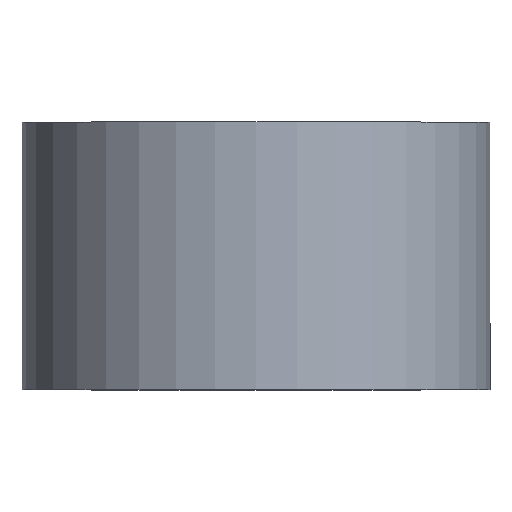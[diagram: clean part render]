
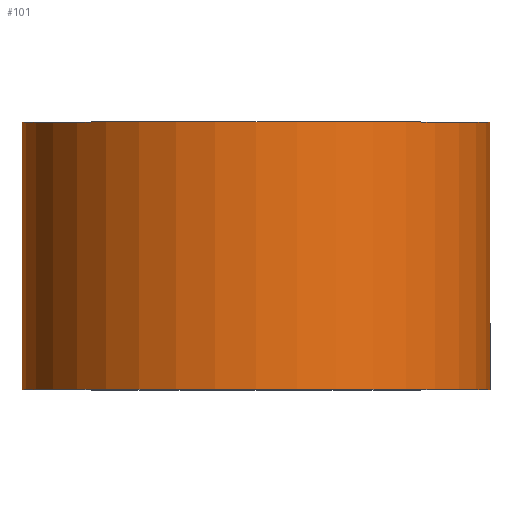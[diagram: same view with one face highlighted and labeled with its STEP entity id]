
A CAD part, top view. The second image highlights one B-rep face of the part: STEP entity #101.
In plain terms, the highlighted cylindrical face has radius 17.5 mm (diameter 35 mm), a partial arc.
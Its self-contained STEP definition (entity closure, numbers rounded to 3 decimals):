
#8 = CARTESIAN_POINT ( 'NONE',  ( 0., 20., 0. ) ) ;
#14 = ORIENTED_EDGE ( 'NONE', *, *, #126, .F. ) ;
#15 = VECTOR ( 'NONE', #288, 1000. ) ;
#25 = CIRCLE ( 'NONE', #134, 17.5 ) ;
#26 = ORIENTED_EDGE ( 'NONE', *, *, #176, .T. ) ;
#31 = CARTESIAN_POINT ( 'NONE',  ( 17.5, 20., 0. ) ) ;
#35 = VERTEX_POINT ( 'NONE', #260 ) ;
#42 = EDGE_LOOP ( 'NONE', ( #215, #26, #103, #14 ) ) ;
#64 = FACE_OUTER_BOUND ( 'NONE', #42, .T. ) ;
#73 = LINE ( 'NONE', #81, #15 ) ;
#77 = DIRECTION ( 'NONE',  ( 0., 1., 0. ) ) ;
#78 = VECTOR ( 'NONE', #218, 1000. ) ;
#80 = VERTEX_POINT ( 'NONE', #141 ) ;
#81 = CARTESIAN_POINT ( 'NONE',  ( 17.5, 0., 0. ) ) ;
#96 = CARTESIAN_POINT ( 'NONE',  ( -17.5, 0., 0. ) ) ;
#101 = ADVANCED_FACE ( 'NONE', ( #64 ), #180, .T. ) ;
#102 = CARTESIAN_POINT ( 'NONE',  ( 0., 0., 0. ) ) ;
#103 = ORIENTED_EDGE ( 'NONE', *, *, #173, .F. ) ;
#111 = DIRECTION ( 'NONE',  ( -1., 0., 0. ) ) ;
#126 = EDGE_CURVE ( 'NONE', #80, #35, #284, .T. ) ;
#134 = AXIS2_PLACEMENT_3D ( 'NONE', #8, #245, #196 ) ;
#141 = CARTESIAN_POINT ( 'NONE',  ( -17.5, 0., 0. ) ) ;
#158 = CIRCLE ( 'NONE', #159, 17.5 ) ;
#159 = AXIS2_PLACEMENT_3D ( 'NONE', #102, #77, #269 ) ;
#163 = CARTESIAN_POINT ( 'NONE',  ( 0., 0., 0. ) ) ;
#173 = EDGE_CURVE ( 'NONE', #35, #262, #25, .T. ) ;
#176 = EDGE_CURVE ( 'NONE', #277, #262, #73, .T. ) ;
#180 = CYLINDRICAL_SURFACE ( 'NONE', #206, 17.5 ) ;
#187 = DIRECTION ( 'NONE',  ( 0., 1., 0. ) ) ;
#192 = EDGE_CURVE ( 'NONE', #80, #277, #158, .T. ) ;
#196 = DIRECTION ( 'NONE',  ( -1., 0., 0. ) ) ;
#206 = AXIS2_PLACEMENT_3D ( 'NONE', #163, #187, #111 ) ;
#215 = ORIENTED_EDGE ( 'NONE', *, *, #192, .T. ) ;
#218 = DIRECTION ( 'NONE',  ( 0., 1., 0. ) ) ;
#244 = CARTESIAN_POINT ( 'NONE',  ( 17.5, 0., 0. ) ) ;
#245 = DIRECTION ( 'NONE',  ( 0., 1., 0. ) ) ;
#260 = CARTESIAN_POINT ( 'NONE',  ( -17.5, 20., 0. ) ) ;
#262 = VERTEX_POINT ( 'NONE', #31 ) ;
#269 = DIRECTION ( 'NONE',  ( -1., 0., 0. ) ) ;
#277 = VERTEX_POINT ( 'NONE', #244 ) ;
#284 = LINE ( 'NONE', #96, #78 ) ;
#288 = DIRECTION ( 'NONE',  ( 0., 1., 0. ) ) ;
